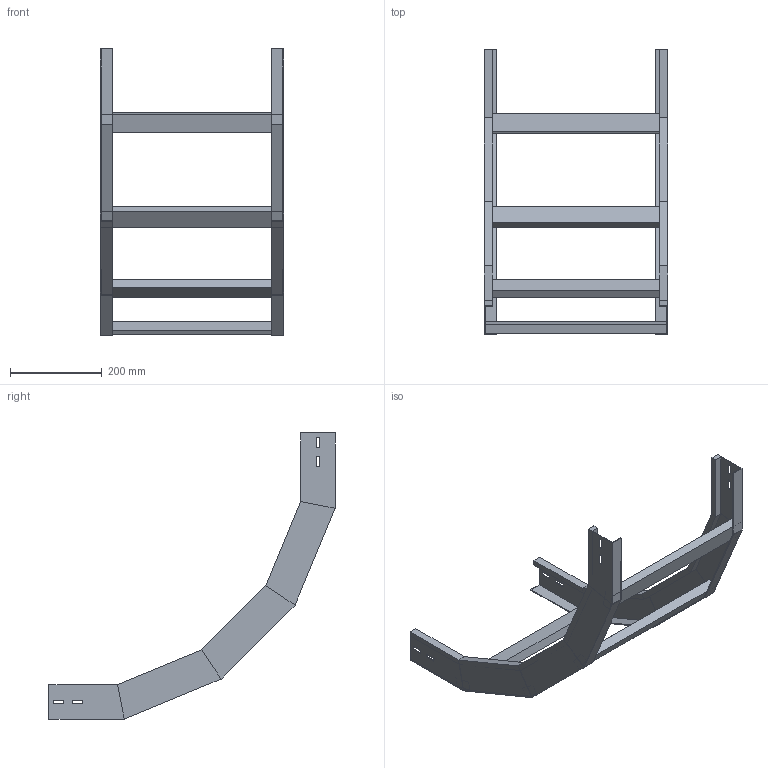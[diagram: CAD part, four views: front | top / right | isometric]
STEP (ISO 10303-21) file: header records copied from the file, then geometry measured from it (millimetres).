
FILE_DESCRIPTION (( 'STEP AP214' ), '1' );
FILE_NAME ('A2X30B5C400XX.step', '2025-03-20T10:24:44', ( '' ), ( '' ), 'SwSTEP 2.0', 'SolidWorks 2023', '' );
FILE_SCHEMA (( 'AUTOMOTIVE_DESIGN' ));
Length unit declared in the file: millimetre
Products named in the file (3): LONGH.SALITA_90°_H75_R500; A2X30B5C400XX; TRAVERSINO_400
Assembly tree (6 placements, depth 2):
  A2X30B5C400XX
    LONGH.SALITA_90°_H75_R500  x2
    TRAVERSINO_400  x4
Bounding box: 400 x 624.12 x 624.12 mm (x, y, z)
Volume: 2015170.9 mm3; surface area: 651123.8 mm2
Topology: 6 solids, 6 shells, 140 faces, 320 edges, 192 vertices
Faces by surface type: plane 140
Entity records: 1872 total; most frequent: CARTESIAN_POINT 309, ORIENTED_EDGE 296, DIRECTION 294, LINE 148, VECTOR 148, EDGE_CURVE 148, VERTEX_POINT 88, AXIS2_PLACEMENT_3D 73
